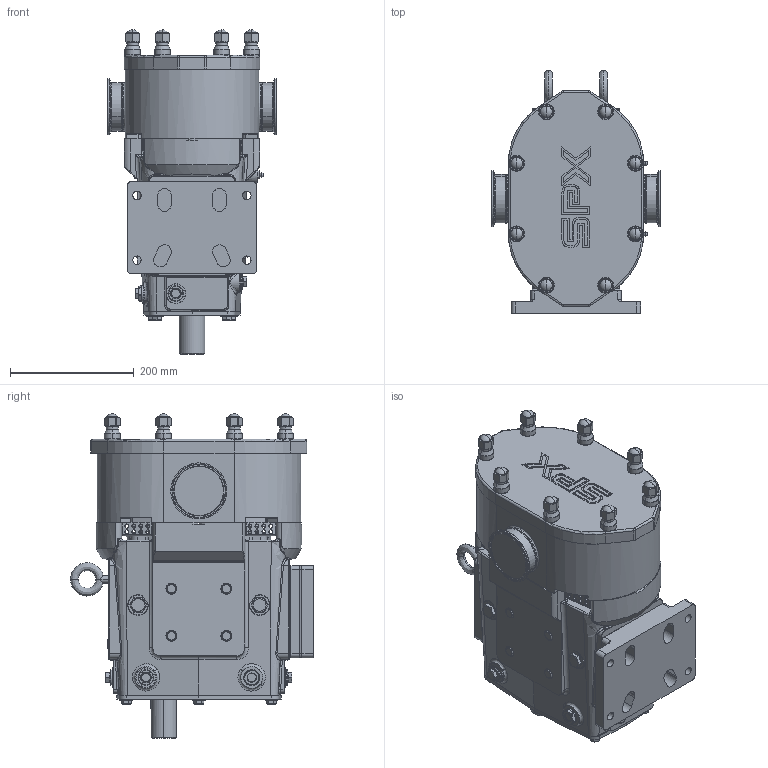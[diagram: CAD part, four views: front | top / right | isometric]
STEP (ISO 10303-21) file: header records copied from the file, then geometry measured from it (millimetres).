
FILE_DESCRIPTION (( 'STEP AP214' ), '1' );
FILE_NAME ('Model 130 Universal 3 Series.STEP', '2017-11-20T21:44:45', ( '' ), ( '' ), 'SwSTEP 2.0', 'SolidWorks 2014', '' );
FILE_SCHEMA (( 'AUTOMOTIVE_DESIGN' ));
Length unit declared in the file: inch
Products named in the file (1): Model 130 Universal 3 Series
Bounding box: 273.09 x 393.7 x 525.16 mm (x, y, z)
Volume: 21209406.6 mm3; surface area: 1091928.2 mm2
Topology: 4 solids, 4 shells, 2496 faces, 6455 edges, 4028 vertices
Faces by surface type: plane 863, cylinder 789, torus 371, cone 281, bspline 174, sphere 18
Entity records: 86995 total; most frequent: CARTESIAN_POINT 26617, ORIENTED_EDGE 12846, DIRECTION 12802, EDGE_CURVE 6423, AXIS2_PLACEMENT_3D 5044, VERTEX_POINT 4028, CIRCLE 2721, LINE 2714
